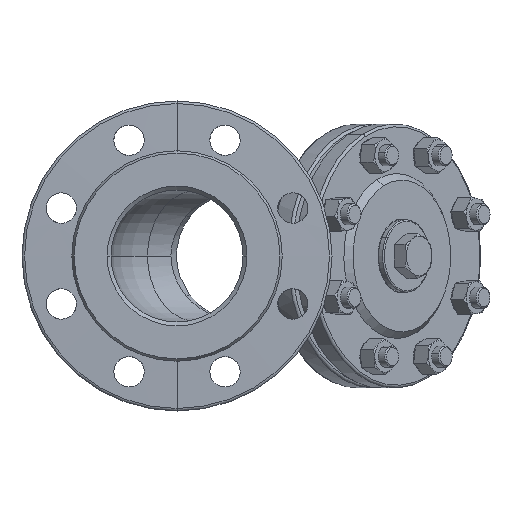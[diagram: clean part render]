
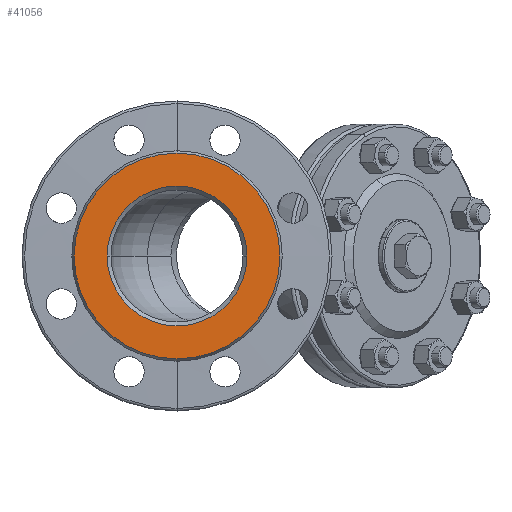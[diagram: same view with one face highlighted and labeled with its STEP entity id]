
A CAD part, left-side view. The second image highlights one B-rep face of the part: STEP entity #41056.
In plain terms, the highlighted planar face has unit normal (-1, 0, 0).
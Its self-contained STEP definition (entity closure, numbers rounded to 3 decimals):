
#536 = EDGE_LOOP ( 'NONE', ( #15600, #15601 ) ) ;
#564 = EDGE_LOOP ( 'NONE', ( #15602, #15603 ) ) ;
#1484 = EDGE_CURVE ( 'NONE', #25550, #25549, #2573, .T. ) ;
#1568 = EDGE_CURVE ( 'NONE', #25594, #25595, #2655, .T. ) ;
#1755 = EDGE_CURVE ( 'NONE', #25549, #25550, #3876, .T. ) ;
#1759 = EDGE_CURVE ( 'NONE', #25595, #25594, #3881, .T. ) ;
#2236 = AXIS2_PLACEMENT_3D ( 'NONE', #2775, #2776, #2777 ) ;
#2273 = AXIS2_PLACEMENT_3D ( 'NONE', #15859, #15860, #15861 ) ;
#2353 = AXIS2_PLACEMENT_3D ( 'NONE', #5617, #5624, #5625 ) ;
#2358 = AXIS2_PLACEMENT_3D ( 'NONE', #5630, #5637, #5638 ) ;
#2573 = CIRCLE ( 'NONE', #2236, 53. ) ;
#2655 = CIRCLE ( 'NONE', #2273, 78. ) ;
#2775 = CARTESIAN_POINT ( 'NONE',  ( 0., 0., 0. ) ) ;
#2776 = DIRECTION ( 'NONE',  ( 1., 0., 0. ) ) ;
#2777 = DIRECTION ( 'NONE',  ( 0., 0., -1. ) ) ;
#3876 = CIRCLE ( 'NONE', #2353, 53. ) ;
#3881 = CIRCLE ( 'NONE', #2358, 78. ) ;
#5617 = CARTESIAN_POINT ( 'NONE',  ( 0., 0., 0. ) ) ;
#5624 = DIRECTION ( 'NONE',  ( 1., 0., 0. ) ) ;
#5625 = DIRECTION ( 'NONE',  ( 0., 0., -1. ) ) ;
#5630 = CARTESIAN_POINT ( 'NONE',  ( 0., 0., 0. ) ) ;
#5637 = DIRECTION ( 'NONE',  ( 1., 0., 0. ) ) ;
#5638 = DIRECTION ( 'NONE',  ( 0., 0., 1. ) ) ;
#8483 = CARTESIAN_POINT ( 'NONE',  ( 0., 53., 0. ) ) ;
#8484 = CARTESIAN_POINT ( 'NONE',  ( 0., -53., 0. ) ) ;
#8528 = CARTESIAN_POINT ( 'NONE',  ( 0., 0., -78. ) ) ;
#8529 = CARTESIAN_POINT ( 'NONE',  ( 0., 0., 78. ) ) ;
#14055 = AXIS2_PLACEMENT_3D ( 'NONE', #18345, #18351, #18352 ) ;
#14400 = FACE_BOUND ( 'NONE', #536, .T. ) ;
#14412 = FACE_OUTER_BOUND ( 'NONE', #564, .T. ) ;
#15600 = ORIENTED_EDGE ( 'NONE', *, *, #1484, .T. ) ;
#15601 = ORIENTED_EDGE ( 'NONE', *, *, #1755, .T. ) ;
#15602 = ORIENTED_EDGE ( 'NONE', *, *, #1568, .F. ) ;
#15603 = ORIENTED_EDGE ( 'NONE', *, *, #1759, .F. ) ;
#15859 = CARTESIAN_POINT ( 'NONE',  ( 0., 0., 0. ) ) ;
#15860 = DIRECTION ( 'NONE',  ( 1., 0., 0. ) ) ;
#15861 = DIRECTION ( 'NONE',  ( 0., 0., 1. ) ) ;
#18342 = PLANE ( 'NONE',  #14055 ) ;
#18345 = CARTESIAN_POINT ( 'NONE',  ( 0., 0., 0. ) ) ;
#18351 = DIRECTION ( 'NONE',  ( -1., 0., 0. ) ) ;
#18352 = DIRECTION ( 'NONE',  ( 0., 0., -1. ) ) ;
#25549 = VERTEX_POINT ( 'NONE', #8483 ) ;
#25550 = VERTEX_POINT ( 'NONE', #8484 ) ;
#25594 = VERTEX_POINT ( 'NONE', #8528 ) ;
#25595 = VERTEX_POINT ( 'NONE', #8529 ) ;
#41056 = ADVANCED_FACE ( 'NONE', ( #14400, #14412 ), #18342, .T. ) ;
